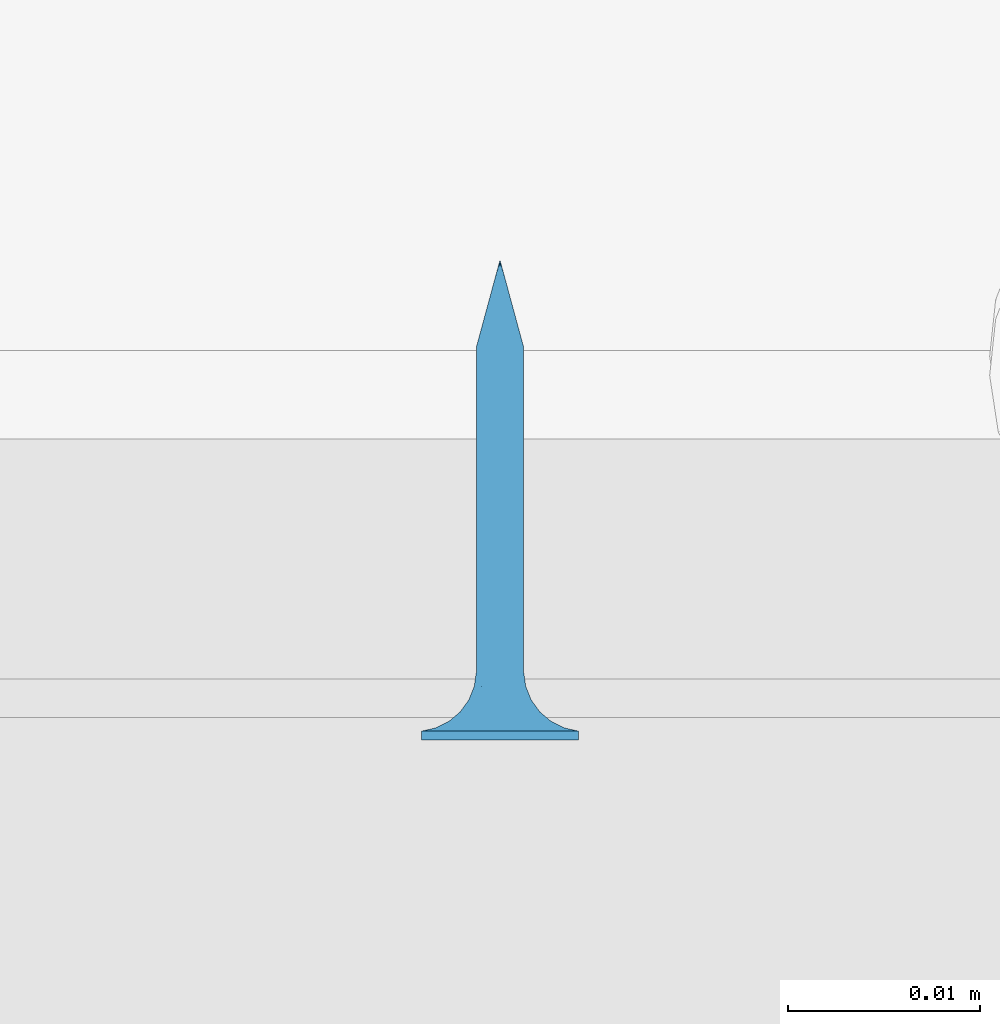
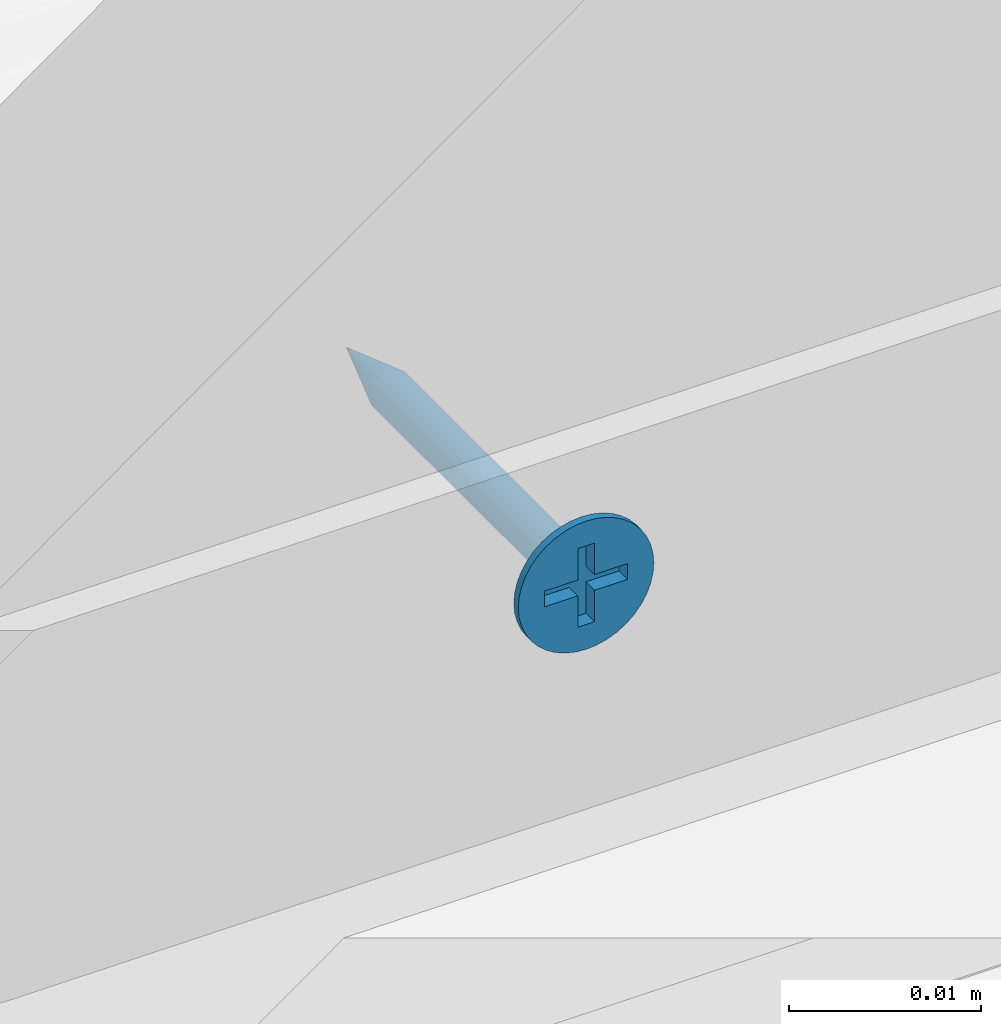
# One storey, part 24 of 79: 1 slab.
"""IFC2X3 building model written with IfcOpenShell, lengths in millimetres."""

from ifc_helpers import new_model, entity, si_unit, converted_unit, direction, frame, origin, origin_with_axes, place, context, project, spatial, faceted_brep, element, save


model = new_model("IFC2X3")

# Units and contexts
model_context = context("Model", 3, precision=1e-05, world=origin(), true_north=direction((0.0, 1.0, 0.0)))
ifc_project = project(units=[si_unit("LENGTHUNIT", "METRE", prefix="MILLI"), si_unit("AREAUNIT", "SQUARE_METRE"), si_unit("VOLUMEUNIT", "CUBIC_METRE"), converted_unit("PLANEANGLEUNIT", "DEGREE", entity("IfcPlaneAngleMeasure", 0.01745), si_unit("PLANEANGLEUNIT", "RADIAN"), dimensions=[0, 0, 0, 0, 0, 0, 0]), si_unit("SOLIDANGLEUNIT", "STERADIAN"), si_unit("MASSUNIT", "GRAM"), si_unit("TIMEUNIT", "SECOND"), si_unit("THERMODYNAMICTEMPERATUREUNIT", "DEGREE_CELSIUS"), si_unit("LUMINOUSINTENSITYUNIT", "LUMEN")], contexts=[model_context])

# Site, building, storey
site_placement = place(None, origin_with_axes())
site = spatial("IfcSite", under=ifc_project, at=site_placement, Name="Default Site", CompositionType="ELEMENT")
building_placement = place(site_placement, origin_with_axes())
building = spatial("IfcBuilding", under=site, at=building_placement, Name="Default Building", CompositionType="ELEMENT")
storey_placement = place(building_placement, origin_with_axes())
storey = spatial("IfcBuildingStorey", under=building, at=storey_placement, Name="Default Building Storey", CompositionType="ELEMENT", Elevation=0.0)

# Slab
slab_placement = place(storey_placement, frame((2580.499834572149, 5017.24186699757, 440.6779499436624), z_axis=(0.0, 0.0, 1.0), x_axis=(1.0, 0.0, 0.0)))
element("IfcSlab", 1, at=slab_placement, inside=storey, Name="Łącznik mechaniczny", context=model_context, shape_type="Brep", body=[
    faceted_brep([(-136.5890362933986, -3387.475459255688, 554.9298199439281), (-136.4636235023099, -3387.475459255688, 555.0766594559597), (-136.4636235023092, -3370.55807436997, 555.0766594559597), (-136.5890362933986, -3370.55807436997, 554.9298199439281), (-136.9005263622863, -3387.475459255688, 554.7035091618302), (-136.9005263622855, -3370.55807436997, 554.7035091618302), (-137.0789337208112, -3370.55807436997, 554.6296104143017), (-137.078933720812, -3387.475459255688, 554.6296104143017), (-137.2667048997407, -3387.475459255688, 554.5845305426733), (-137.2667048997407, -3370.55807436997, 554.5845305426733), (-137.4592163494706, -3370.55807436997, 554.5693795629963), (-137.4592163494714, -3387.475459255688, 554.5693795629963), (-136.4636235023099, -3387.475459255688, 556.5233405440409), (-136.5890362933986, -3387.475459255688, 556.6701800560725), (-136.5890362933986, -3370.55807436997, 556.6701800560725), (-136.4636235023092, -3370.55807436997, 556.5233405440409), (-138.4548091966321, -3370.55807436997, 556.5233405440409), (-138.3293964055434, -3370.55807436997, 556.6701800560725), (-138.3293964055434, -3387.475459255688, 556.6701800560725), (-138.4548091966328, -3387.475459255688, 556.5233405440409), (-136.7358758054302, -3370.55807436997, 554.8044071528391), (-136.7358758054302, -3387.475459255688, 554.8044071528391), (-138.1825568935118, -3387.475459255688, 556.7955928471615), (-138.1825568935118, -3370.55807436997, 556.7955928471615), (-138.0179063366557, -3370.55807436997, 556.8964908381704), (-138.0179063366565, -3387.475459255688, 556.8964908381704), (-136.3627255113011, -3387.475459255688, 556.3586899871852), (-136.3627255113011, -3370.55807436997, 556.3586899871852), (-136.7358758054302, -3387.475459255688, 556.7955928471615), (-136.7358758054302, -3370.55807436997, 556.7955928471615), (-137.6517277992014, -3387.475459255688, 554.5845305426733), (-137.6517277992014, -3370.55807436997, 554.5845305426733), (-137.83949897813, -3370.55807436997, 554.6296104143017), (-137.8394989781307, -3387.475459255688, 554.6296104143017), (-136.3627255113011, -3387.475459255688, 555.241310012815), (-136.3627255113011, -3370.55807436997, 555.241310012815), (-138.0179063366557, -3370.55807436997, 554.7035091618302), (-138.0179063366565, -3387.475459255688, 554.7035091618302), (-138.6746858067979, -3370.55807436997, 555.6074885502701), (-138.6898367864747, -3370.55807436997, 555.8000000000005), (-138.6898367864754, -3387.475459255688, 555.8000000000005), (-138.6746858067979, -3387.475459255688, 555.6074885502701), (-136.2285959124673, -3387.475459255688, 555.8000000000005), (-136.2437468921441, -3387.475459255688, 555.9925114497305), (-136.2437468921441, -3370.55807436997, 555.9925114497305), (-136.2285959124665, -3370.55807436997, 555.8000000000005), (-138.3293964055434, -3370.55807436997, 554.9298199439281), (-138.4548091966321, -3370.55807436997, 555.0766594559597), (-138.4548091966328, -3387.475459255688, 555.0766594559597), (-138.3293964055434, -3387.475459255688, 554.9298199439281), (-137.83949897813, -3370.55807436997, 556.9703895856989), (-137.8394989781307, -3387.475459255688, 556.9703895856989), (-138.1825568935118, -3370.55807436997, 554.8044071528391), (-138.1825568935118, -3387.475459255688, 554.8044071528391), (-138.5557071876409, -3370.55807436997, 555.241310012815), (-138.6296059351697, -3370.55807436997, 555.4197173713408), (-138.6296059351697, -3387.475459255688, 555.4197173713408), (-138.5557071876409, -3387.475459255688, 555.241310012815), (-136.2888267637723, -3387.475459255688, 555.4197173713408), (-136.2437468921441, -3387.475459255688, 555.6074885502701), (-136.2437468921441, -3370.55807436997, 555.6074885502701), (-136.2888267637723, -3370.55807436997, 555.4197173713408), (-136.2888267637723, -3387.475459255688, 556.1802826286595), (-136.2888267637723, -3370.55807436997, 556.1802826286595), (-137.4592163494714, -3387.475459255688, 557.0306204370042), (-137.4592163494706, -3370.55807436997, 557.0306204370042), (-137.2667048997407, -3370.55807436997, 557.0154694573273), (-137.2667048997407, -3387.475459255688, 557.0154694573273), (-137.0789337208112, -3370.55807436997, 556.9703895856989), (-137.078933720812, -3387.475459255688, 556.9703895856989), (-137.6517277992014, -3387.475459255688, 557.0154694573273), (-137.6517277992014, -3370.55807436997, 557.0154694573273), (-136.9005263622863, -3387.475459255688, 556.8964908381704), (-136.9005263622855, -3370.55807436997, 556.8964908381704), (-138.6296059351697, -3370.55807436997, 556.1802826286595), (-138.5557071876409, -3370.55807436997, 556.3586899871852), (-138.5557071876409, -3387.475459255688, 556.3586899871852), (-138.6296059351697, -3387.475459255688, 556.1802826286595), (-138.6746858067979, -3370.55807436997, 555.9925114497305), (-138.6746858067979, -3387.475459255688, 555.9925114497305), (-141.5377463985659, -3390.556721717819, 555.8000000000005), (-141.5377463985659, -3391.020944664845, 555.8000000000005), (-141.4875329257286, -3391.020944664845, 555.1619773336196), (-141.4875329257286, -3390.556721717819, 555.1619773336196), (-141.338128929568, -3391.020944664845, 554.539664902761), (-141.338128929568, -3390.556721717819, 554.539664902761), (-141.0932132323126, -3391.020944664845, 553.948386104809), (-141.0932132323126, -3390.556721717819, 553.948386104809), (-140.7588164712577, -3391.020944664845, 553.4027001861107), (-140.7588164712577, -3390.556721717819, 553.4027001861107), (-140.3431726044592, -3391.020944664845, 552.9160437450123), (-140.4541727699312, -3390.556721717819, 553.0314907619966), (-140.1080097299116, -3390.556721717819, 552.6986614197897), (-139.8565161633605, -3391.020944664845, 552.5003998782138), (-139.7251262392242, -3390.556721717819, 552.4088262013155), (-139.3108302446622, -3391.020944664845, 552.1660031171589), (-139.3108302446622, -3390.556721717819, 552.1660031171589), (-138.8708651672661, -3390.556721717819, 551.9735584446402), (-138.7195514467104, -3391.020944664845, 551.9210874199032), (-138.4113302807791, -3390.556721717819, 551.8341600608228), (-137.9385961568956, -3390.556721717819, 551.7497404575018), (-138.0972390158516, -3391.020944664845, 551.7716834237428), (-137.4592163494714, -3391.020944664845, 551.7214699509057), (-137.4592163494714, -3390.556721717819, 551.7214699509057), (-136.8211936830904, -3391.020944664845, 551.7716834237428), (-136.8211936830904, -3390.556721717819, 551.7716834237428), (-136.1988812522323, -3391.020944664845, 551.9210874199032), (-136.1988812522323, -3390.556721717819, 551.9210874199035), (-135.6076024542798, -3391.020944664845, 552.1660031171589), (-135.6076024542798, -3390.556721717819, 552.1660031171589), (-135.0619165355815, -3391.020944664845, 552.5003998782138), (-135.0619165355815, -3390.556721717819, 552.5003998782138), (-134.5752600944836, -3391.020944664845, 552.9160437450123), (-134.5752600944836, -3390.556721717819, 552.9160437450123), (-134.1596162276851, -3391.020944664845, 553.4027001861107), (-134.1596162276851, -3390.556721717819, 553.4027001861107), (-133.8252194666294, -3391.020944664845, 553.948386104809), (-133.8252194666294, -3390.556721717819, 553.948386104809), (-133.580303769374, -3391.020944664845, 554.539664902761), (-133.580303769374, -3390.556721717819, 554.539664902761), (-133.4308997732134, -3391.020944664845, 556.438022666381), (-133.4308997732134, -3390.556721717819, 556.438022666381), (-133.3806863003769, -3390.556721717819, 555.8000000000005), (-133.3806863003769, -3391.020944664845, 555.8000000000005), (-133.4308997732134, -3390.556721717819, 555.1619773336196), (-133.4308997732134, -3391.020944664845, 555.1619773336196), (-133.580303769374, -3391.020944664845, 557.0603350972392), (-133.580303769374, -3390.556721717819, 557.0603350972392), (-133.8252194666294, -3391.020944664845, 557.6516138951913), (-133.8252194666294, -3390.556721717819, 557.6516138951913), (-134.1596162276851, -3391.020944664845, 558.1972998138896), (-134.1596162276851, -3390.556721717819, 558.1972998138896), (-134.5752600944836, -3391.020944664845, 558.683956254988), (-134.5752600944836, -3390.556721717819, 558.683956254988), (-135.0619165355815, -3391.020944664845, 559.0996001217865), (-135.0619165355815, -3390.556721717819, 559.0996001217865), (-135.6076024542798, -3391.020944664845, 559.4339968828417), (-135.6076024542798, -3390.556721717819, 559.4339968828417), (-136.1988812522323, -3391.020944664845, 559.6789125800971), (-136.1988812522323, -3390.556721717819, 559.6789125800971), (-136.8211936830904, -3391.020944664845, 559.8283165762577), (-136.8211936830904, -3390.556721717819, 559.8283165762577), (-137.4592163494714, -3391.020944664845, 559.8785300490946), (-137.4592163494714, -3390.556721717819, 559.8785300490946), (-138.0972390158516, -3391.020944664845, 559.8283165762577), (-138.0972390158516, -3390.556721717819, 559.8283165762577), (-138.7195514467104, -3391.020944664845, 559.6789125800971), (-138.7195514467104, -3390.556721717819, 559.6789125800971), (-139.3108302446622, -3391.020944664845, 559.4339968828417), (-139.3108302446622, -3390.556721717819, 559.4339968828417), (-139.8565161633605, -3391.020944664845, 559.0996001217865), (-139.8565161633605, -3390.556721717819, 559.0996001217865), (-140.3431726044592, -3391.020944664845, 558.683956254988), (-140.3431726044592, -3390.556721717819, 558.683956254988), (-140.7588164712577, -3391.020944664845, 558.1972998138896), (-140.7588164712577, -3390.556721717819, 558.1972998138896), (-141.0932132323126, -3391.020944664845, 557.6516138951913), (-141.0932132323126, -3390.556721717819, 557.6516138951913), (-141.338128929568, -3391.020944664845, 557.0603350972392), (-141.338128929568, -3390.556721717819, 557.0603350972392), (-141.4875329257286, -3391.020944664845, 556.438022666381), (-141.4875329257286, -3390.556721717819, 556.438022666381), (-137.8060615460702, -3388.229732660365, 554.5055560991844), (-137.4592163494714, -3388.229732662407, 554.4598930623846), (-138.1292698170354, -3388.229732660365, 554.6394333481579), (-138.4068150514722, -3388.229732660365, 554.8524012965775), (-138.6197830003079, -3388.229732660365, 555.1299465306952), (-138.7536602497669, -3388.229732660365, 555.4531548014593), (-138.7993232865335, -3388.229732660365, 555.7999999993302), (-138.7536602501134, -3388.229732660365, 556.1468451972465), (-138.6197830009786, -3388.229732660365, 556.4700534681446), (-138.4068150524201, -3388.229732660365, 556.7475987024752), (-138.1292698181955, -3388.229732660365, 556.9605666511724), (-137.8060615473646, -3388.229732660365, 557.0944439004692), (-137.4592163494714, -3388.229732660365, 557.1401069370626), (-137.1123711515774, -3388.229732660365, 557.0944439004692), (-136.7891628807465, -3388.229732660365, 556.9605666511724), (-136.5116176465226, -3388.229732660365, 556.7475987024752), (-136.2986496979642, -3388.229732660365, 556.4700534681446), (-136.1647724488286, -3388.229732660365, 556.1468451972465), (-136.1191094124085, -3388.229732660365, 555.7999999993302), (-136.1647724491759, -3388.229732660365, 555.4531548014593), (-136.2986496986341, -3388.229732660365, 555.1299465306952), (-136.5116176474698, -3388.229732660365, 554.8524012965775), (-136.7891628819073, -3388.229732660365, 554.6394333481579), (-137.1123711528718, -3388.229732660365, 554.5055560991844), (-137.4592163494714, -3388.936142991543, 554.1737111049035), (-137.8801308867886, -3388.936142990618, 554.2291255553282), (-138.2723607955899, -3388.936142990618, 554.39159250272), (-138.6091762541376, -3388.936142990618, 554.6500400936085), (-138.8676238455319, -3388.936142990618, 554.9868555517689), (-139.0300907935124, -3388.936142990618, 555.3790854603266), (-139.0855052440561, -3388.936142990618, 555.7999999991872), (-139.0300907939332, -3388.936142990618, 556.2209145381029), (-138.8676238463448, -3388.936142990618, 556.6131444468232), (-138.6091762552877, -3388.936142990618, 556.949959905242), (-138.2723607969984, -3388.936142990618, 557.2084074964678), (-137.8801308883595, -3388.936142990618, 557.3708744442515), (-137.4592163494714, -3388.936142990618, 557.4262888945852), (-137.0383018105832, -3388.936142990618, 557.3708744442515), (-136.6460719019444, -3388.936142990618, 557.2084074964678), (-136.3092564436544, -3388.936142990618, 556.949959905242), (-136.0508088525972, -3388.936142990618, 556.6131444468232), (-135.8883419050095, -3388.936142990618, 556.2209145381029), (-135.8329274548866, -3388.936142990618, 555.7999999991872), (-135.8883419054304, -3388.936142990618, 555.3790854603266), (-136.0508088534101, -3388.936142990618, 554.9868555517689), (-136.3092564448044, -3388.936142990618, 554.6500400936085), (-136.6460719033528, -3388.936142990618, 554.39159250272), (-137.0383018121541, -3388.936142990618, 554.2291255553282), (-137.4592163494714, -3389.553938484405, 553.727343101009), (-137.9956594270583, -3389.553938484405, 553.7979671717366), (-138.4955447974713, -3389.553938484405, 554.0050264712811), (-138.9248060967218, -3389.553938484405, 554.3344102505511), (-139.2541898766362, -3389.553938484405, 554.7636715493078), (-139.46124917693, -3389.553938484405, 555.2635569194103), (-139.5318732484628, -3389.553938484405, 555.7999999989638), (-139.4612491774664, -3389.553938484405, 556.3364430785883), (-139.2541898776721, -3389.553938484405, 556.8363284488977), (-138.9248060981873, -3389.553938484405, 557.2655897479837), (-138.495544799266, -3389.553938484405, 557.5949735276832), (-137.9956594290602, -3389.553938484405, 557.8020328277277), (-137.4592163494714, -3389.553938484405, 557.8726568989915), (-136.9227732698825, -3389.553938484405, 557.8020328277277), (-136.422887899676, -3389.553938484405, 557.5949735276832), (-135.9936266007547, -3389.553938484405, 557.2655897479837), (-135.6642428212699, -3389.553938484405, 556.8363284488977), (-135.4571835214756, -3389.553938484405, 556.3364430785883), (-135.3865594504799, -3389.553938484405, 555.7999999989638), (-135.457183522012, -3389.553938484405, 555.2635569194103), (-135.6642428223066, -3389.553938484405, 554.7636715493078), (-135.9936266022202, -3389.553938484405, 554.3344102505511), (-136.4228879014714, -3389.553938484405, 554.0050264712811), (-136.9227732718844, -3389.553938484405, 553.7979671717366), (-137.4592163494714, -3390.04747944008, 553.1465393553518), (-138.1459824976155, -3390.047479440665, 553.2369538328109), (-138.7859466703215, -3390.047479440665, 553.5020356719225), (-139.3354963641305, -3390.047479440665, 553.9237199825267), (-139.757180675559, -3390.047479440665, 554.4732696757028), (-140.0222625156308, -3390.047479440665, 555.1132338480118), (-140.1126769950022, -3390.047479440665, 555.7999999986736), (-140.0222625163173, -3390.047479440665, 556.4867661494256), (-139.7571806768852, -3390.047479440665, 557.1267303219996), (-139.3354963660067, -3390.047479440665, 557.6762800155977), (-138.7859466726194, -3390.047479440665, 558.0979643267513), (-138.1459825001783, -3390.047479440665, 558.3630461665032), (-137.4592163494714, -3390.047479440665, 558.4534606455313), (-136.7724501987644, -3390.047479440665, 558.3630461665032), (-136.1324860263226, -3390.047479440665, 558.0979643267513), (-135.5829363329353, -3390.047479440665, 557.6762800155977), (-135.1612520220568, -3390.047479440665, 557.1267303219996), (-134.8961701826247, -3390.047479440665, 556.4867661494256), (-134.8057557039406, -3390.047479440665, 555.7999999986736), (-134.8961701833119, -3390.047479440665, 555.1132338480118), (-135.1612520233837, -3390.047479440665, 554.4732696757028), (-135.5829363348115, -3390.047479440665, 553.9237199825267), (-136.1324860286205, -3390.047479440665, 553.5020356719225), (-136.7724502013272, -3390.047479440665, 553.2369538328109), (-137.4592163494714, -3390.388294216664, 552.4648055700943), (-138.3224281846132, -3390.388294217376, 552.5784495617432), (-139.1268135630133, -3390.388294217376, 552.9116368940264), (-139.8175549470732, -3390.388294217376, 553.4416613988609), (-140.3475794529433, -3390.388294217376, 554.1324027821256), (-140.6807667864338, -3390.388294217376, 554.9367881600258), (-140.7944107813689, -3390.388294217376, 555.7999999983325), (-140.6807667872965, -3390.388294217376, 556.6632118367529), (-140.3475794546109, -3390.388294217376, 557.4675972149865), (-139.8175549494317, -3390.388294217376, 558.1583385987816), (-139.1268135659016, -3390.388294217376, 558.6883631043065), (-138.3224281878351, -3390.388294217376, 559.0215504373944), (-137.4592163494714, -3390.388294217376, 559.1351944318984), (-136.5960045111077, -3390.388294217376, 559.0215504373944), (-135.7916191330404, -3390.388294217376, 558.6883631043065), (-135.1008777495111, -3390.388294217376, 558.1583385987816), (-134.5708532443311, -3390.388294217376, 557.4675972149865), (-134.2376659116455, -3390.388294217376, 556.6632118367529), (-134.1240219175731, -3390.388294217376, 555.7999999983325), (-134.2376659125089, -3390.388294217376, 554.9367881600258), (-134.5708532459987, -3390.388294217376, 554.1324027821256), (-135.1008777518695, -3390.388294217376, 553.4416613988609), (-135.7916191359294, -3390.388294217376, 552.9116368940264), (-136.5960045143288, -3390.388294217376, 552.5784495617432), (-137.4592163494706, -3366.021033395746, 555.8000000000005), (-139.9592163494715, -3391.020944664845, 556.3000000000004), (-137.9592163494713, -3391.020944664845, 556.3000000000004), (-139.9592163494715, -3391.020944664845, 555.3000000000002), (-137.9592163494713, -3391.020944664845, 555.3000000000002), (-137.9592163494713, -3391.020944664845, 553.3000000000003), (-136.9592163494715, -3391.020944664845, 553.3000000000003), (-136.9592163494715, -3391.020944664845, 555.3000000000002), (-134.9592163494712, -3391.020944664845, 555.3000000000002), (-134.9592163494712, -3391.020944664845, 556.3000000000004), (-136.9592163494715, -3391.020944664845, 556.3000000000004), (-136.9592163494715, -3391.020944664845, 558.3000000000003), (-137.9592163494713, -3391.020944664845, 558.3000000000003), (-136.9592163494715, -3390.128974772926, 556.3000000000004), (-134.9592163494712, -3390.128974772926, 556.3000000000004), (-134.9592163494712, -3390.128974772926, 555.3000000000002), (-136.9592163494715, -3390.128974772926, 555.3000000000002), (-136.9592163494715, -3390.128974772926, 553.3000000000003), (-137.9592163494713, -3390.128974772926, 553.3000000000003), (-137.9592163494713, -3390.128974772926, 555.3000000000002), (-139.9592163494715, -3390.128974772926, 555.3000000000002), (-139.9592163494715, -3390.128974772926, 556.3000000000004), (-137.9592163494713, -3390.128974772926, 556.3000000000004), (-137.9592163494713, -3390.128974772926, 558.3000000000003), (-136.9592163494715, -3390.128974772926, 558.3000000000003)], [[[0, 1, 2, 3]], [[4, 5, 6, 7]], [[8, 9, 10, 11]], [[12, 13, 14, 15]], [[16, 17, 18, 19]], [[0, 3, 20, 21]], [[22, 23, 24, 25]], [[26, 12, 15, 27]], [[28, 29, 14, 13]], [[30, 31, 32, 33]], [[1, 34, 35, 2]], [[18, 17, 23, 22]], [[7, 6, 9, 8]], [[33, 32, 36, 37]], [[38, 39, 40, 41]], [[42, 43, 44, 45]], [[46, 47, 48, 49]], [[25, 24, 50, 51]], [[37, 36, 52, 53]], [[54, 55, 56, 57]], [[53, 52, 46, 49]], [[47, 54, 57, 48]], [[58, 59, 60, 61]], [[59, 42, 45, 60]], [[43, 62, 63, 44]], [[64, 65, 66, 67]], [[67, 66, 68, 69]], [[55, 38, 41, 56]], [[70, 71, 65, 64]], [[72, 73, 29, 28]], [[74, 75, 76, 77]], [[69, 68, 73, 72]], [[39, 78, 79, 40]], [[75, 16, 19, 76]], [[62, 26, 27, 63]], [[11, 10, 31, 30]], [[21, 20, 5, 4]], [[34, 58, 61, 35]], [[51, 50, 71, 70]], [[78, 74, 77, 79]], [[80, 81, 82, 83]], [[84, 85, 83, 82]], [[86, 87, 85, 84]], [[87, 86, 88, 89]], [[88, 90, 89]], [[90, 91, 89]], [[92, 91, 93]], [[91, 90, 93]], [[93, 94, 92]], [[93, 95, 94]], [[95, 96, 94]], [[97, 96, 98]], [[96, 95, 98]], [[98, 99, 97]], [[100, 99, 101]], [[99, 98, 101]], [[101, 102, 100]], [[102, 103, 100]], [[103, 102, 104, 105]], [[106, 107, 105, 104]], [[108, 109, 107, 106]], [[109, 108, 110, 111]], [[112, 113, 111, 110]], [[113, 112, 114, 115]], [[116, 117, 115, 114]], [[118, 119, 117, 116]], [[120, 121, 122, 123]], [[123, 122, 124, 125]], [[119, 118, 125, 124]], [[126, 127, 121, 120]], [[128, 129, 127, 126]], [[129, 128, 130, 131]], [[132, 133, 131, 130]], [[133, 132, 134, 135]], [[136, 137, 135, 134]], [[138, 139, 137, 136]], [[139, 138, 140, 141]], [[142, 143, 141, 140]], [[143, 142, 144, 145]], [[146, 147, 145, 144]], [[148, 149, 147, 146]], [[149, 148, 150, 151]], [[152, 153, 151, 150]], [[153, 152, 154, 155]], [[156, 157, 155, 154]], [[158, 159, 157, 156]], [[159, 158, 160, 161]], [[81, 80, 161, 160]], [[162, 11, 30]], [[162, 163, 11]], [[30, 33, 162]], [[162, 33, 164]], [[37, 164, 33]], [[164, 37, 53]], [[53, 165, 164]], [[53, 49, 165]], [[166, 49, 48]], [[166, 165, 49]], [[48, 57, 166]], [[166, 57, 167]], [[56, 167, 57]], [[167, 56, 41]], [[41, 168, 167]], [[41, 40, 168]], [[169, 40, 79]], [[169, 168, 40]], [[79, 77, 169]], [[169, 77, 170]], [[76, 170, 77]], [[170, 76, 19]], [[19, 171, 170]], [[19, 18, 171]], [[172, 18, 22]], [[172, 171, 18]], [[22, 25, 172]], [[172, 25, 173]], [[51, 173, 25]], [[173, 51, 70]], [[70, 174, 173]], [[70, 64, 174]], [[175, 64, 67]], [[175, 174, 64]], [[67, 69, 175]], [[175, 69, 176]], [[72, 176, 69]], [[176, 72, 28]], [[28, 177, 176]], [[28, 13, 177]], [[178, 13, 12]], [[178, 177, 13]], [[12, 26, 178]], [[178, 26, 179]], [[62, 179, 26]], [[179, 62, 43]], [[43, 180, 179]], [[43, 42, 180]], [[181, 42, 59]], [[181, 180, 42]], [[59, 58, 181]], [[181, 58, 182]], [[34, 182, 58]], [[182, 34, 1]], [[1, 183, 182]], [[1, 0, 183]], [[184, 0, 21]], [[184, 183, 0]], [[21, 4, 184]], [[184, 4, 185]], [[7, 185, 4]], [[185, 7, 8]], [[8, 163, 185]], [[8, 11, 163]], [[186, 163, 187]], [[162, 187, 163]], [[164, 188, 187, 162]], [[165, 189, 188, 164]], [[166, 190, 189, 165]], [[167, 191, 190, 166]], [[168, 192, 191, 167]], [[169, 193, 192, 168]], [[170, 194, 193, 169]], [[171, 195, 194, 170]], [[172, 196, 195, 171]], [[173, 197, 196, 172]], [[174, 198, 197, 173]], [[175, 199, 198, 174]], [[176, 200, 199, 175]], [[177, 201, 200, 176]], [[178, 202, 201, 177]], [[179, 203, 202, 178]], [[180, 204, 203, 179]], [[181, 205, 204, 180]], [[182, 206, 205, 181]], [[183, 207, 206, 182]], [[184, 208, 207, 183]], [[185, 209, 208, 184]], [[185, 163, 209]], [[186, 209, 163]], [[210, 186, 211]], [[187, 211, 186]], [[188, 212, 211, 187]], [[189, 213, 212, 188]], [[190, 214, 213, 189]], [[191, 215, 214, 190]], [[192, 216, 215, 191]], [[193, 217, 216, 192]], [[194, 218, 217, 193]], [[195, 219, 218, 194]], [[196, 220, 219, 195]], [[197, 221, 220, 196]], [[198, 222, 221, 197]], [[199, 223, 222, 198]], [[200, 224, 223, 199]], [[201, 225, 224, 200]], [[202, 226, 225, 201]], [[203, 227, 226, 202]], [[204, 228, 227, 203]], [[205, 229, 228, 204]], [[206, 230, 229, 205]], [[207, 231, 230, 206]], [[208, 232, 231, 207]], [[209, 233, 232, 208]], [[209, 186, 233]], [[210, 233, 186]], [[234, 210, 235]], [[211, 235, 210]], [[212, 236, 235, 211]], [[213, 237, 236, 212]], [[214, 238, 237, 213]], [[215, 239, 238, 214]], [[216, 240, 239, 215]], [[217, 241, 240, 216]], [[218, 242, 241, 217]], [[219, 243, 242, 218]], [[220, 244, 243, 219]], [[221, 245, 244, 220]], [[222, 246, 245, 221]], [[223, 247, 246, 222]], [[224, 248, 247, 223]], [[225, 249, 248, 224]], [[226, 250, 249, 225]], [[227, 251, 250, 226]], [[228, 252, 251, 227]], [[229, 253, 252, 228]], [[230, 254, 253, 229]], [[231, 255, 254, 230]], [[232, 256, 255, 231]], [[233, 257, 256, 232]], [[233, 210, 257]], [[234, 257, 210]], [[258, 99, 100]], [[258, 259, 99]], [[100, 103, 258]], [[258, 234, 259]], [[235, 259, 234]], [[259, 96, 97]], [[259, 260, 96]], [[97, 99, 259]], [[236, 260, 259, 235]], [[261, 91, 92]], [[260, 92, 94]], [[260, 261, 92]], [[94, 96, 260]], [[237, 261, 260, 236]], [[262, 87, 89]], [[89, 261, 262]], [[89, 91, 261]], [[238, 262, 261, 237]], [[85, 87, 263]], [[262, 263, 87]], [[239, 263, 262, 238]], [[263, 80, 83]], [[263, 264, 80]], [[83, 85, 263]], [[240, 264, 263, 239]], [[265, 159, 161]], [[161, 264, 265]], [[161, 80, 264]], [[241, 265, 264, 240]], [[265, 266, 157, 159]], [[242, 266, 265, 241]], [[266, 153, 155]], [[266, 267, 153]], [[155, 157, 266]], [[243, 267, 266, 242]], [[268, 149, 151]], [[151, 267, 268]], [[151, 153, 267]], [[244, 268, 267, 243]], [[268, 269, 147, 149]], [[245, 269, 268, 244]], [[269, 143, 145]], [[269, 270, 143]], [[145, 147, 269]], [[246, 270, 269, 245]], [[271, 139, 141]], [[141, 270, 271]], [[141, 143, 270]], [[247, 271, 270, 246]], [[271, 272, 137, 139]], [[248, 272, 271, 247]], [[272, 133, 135]], [[272, 273, 133]], [[135, 137, 272]], [[249, 273, 272, 248]], [[274, 129, 131]], [[131, 273, 274]], [[131, 133, 273]], [[250, 274, 273, 249]], [[274, 275, 127, 129]], [[251, 275, 274, 250]], [[275, 122, 121]], [[275, 276, 122]], [[121, 127, 275]], [[252, 276, 275, 251]], [[277, 119, 124]], [[124, 276, 277]], [[124, 122, 276]], [[253, 277, 276, 252]], [[117, 119, 278]], [[277, 278, 119]], [[254, 278, 277, 253]], [[278, 113, 115]], [[278, 279, 113]], [[115, 117, 278]], [[255, 279, 278, 254]], [[280, 109, 111]], [[111, 279, 280]], [[111, 113, 279]], [[256, 280, 279, 255]], [[107, 109, 281]], [[280, 281, 109]], [[257, 281, 280, 256]], [[257, 234, 281]], [[258, 281, 234]], [[281, 103, 105]], [[281, 258, 103]], [[105, 107, 281]], [[38, 55, 282]], [[282, 39, 38]], [[55, 54, 282]], [[47, 46, 282]], [[282, 54, 47]], [[52, 36, 282]], [[282, 46, 52]], [[36, 32, 282]], [[31, 10, 282]], [[282, 32, 31]], [[9, 6, 282]], [[282, 10, 9]], [[6, 5, 282]], [[20, 3, 282]], [[282, 5, 20]], [[2, 35, 282]], [[282, 3, 2]], [[35, 61, 282]], [[60, 45, 282]], [[282, 61, 60]], [[44, 63, 282]], [[282, 45, 44]], [[63, 27, 282]], [[15, 14, 282]], [[282, 27, 15]], [[29, 73, 282]], [[282, 14, 29]], [[73, 68, 282]], [[66, 65, 282]], [[282, 68, 66]], [[71, 50, 282]], [[282, 65, 71]], [[50, 24, 282]], [[23, 17, 282]], [[282, 24, 23]], [[16, 75, 282]], [[282, 17, 16]], [[75, 74, 282]], [[78, 39, 282]], [[282, 74, 78]], [[283, 156, 154, 284]], [[283, 285, 286, 287, 288, 289, 290, 291, 292, 293, 294, 284, 154, 152, 150, 148, 146, 144, 142, 140, 138, 136, 134, 132, 130, 128, 126, 120, 123, 125, 118, 116, 114, 112, 110, 108, 106, 104, 102, 101, 98, 95, 93, 90, 88, 86, 84, 82, 81, 160, 158, 156]], [[295, 296, 297, 298, 299, 300, 301, 302, 303, 304, 305, 306]], [[297, 290, 289, 298]], [[296, 291, 290, 297]], [[295, 292, 291, 296]], [[306, 293, 292, 295]], [[305, 294, 293, 306]], [[304, 284, 294, 305]], [[303, 283, 284, 304]], [[302, 285, 283, 303]], [[301, 286, 285, 302]], [[300, 287, 286, 301]], [[299, 288, 287, 300]], [[298, 289, 288, 299]]]),
])

save(model, "model.ifc")
